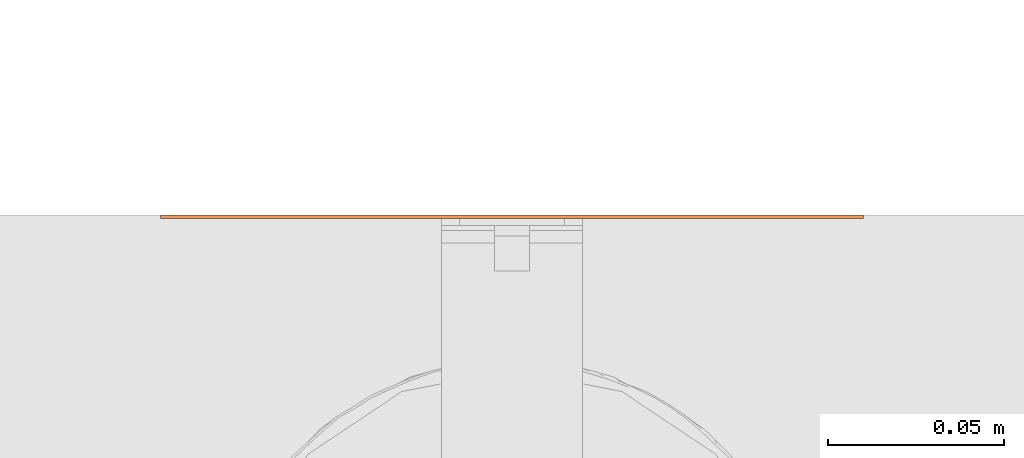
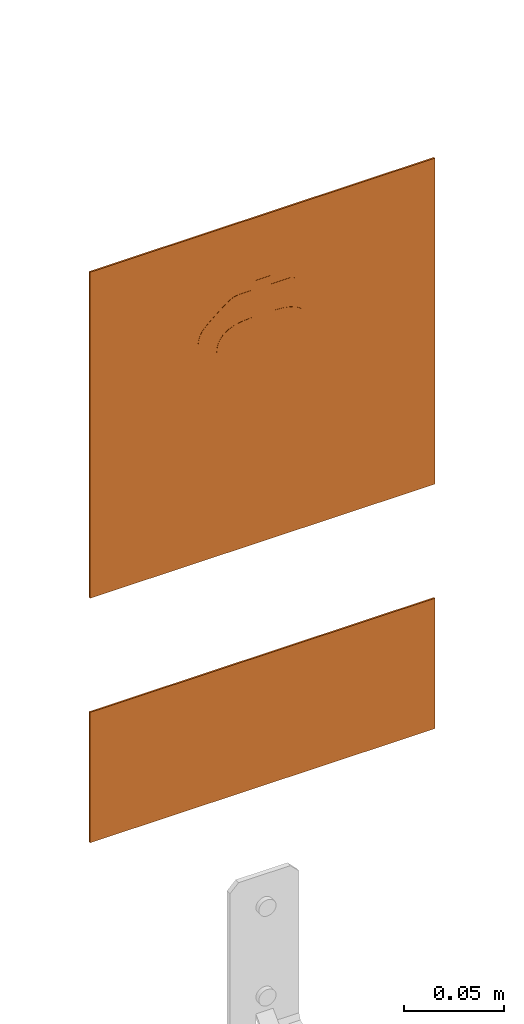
# One storey, part 88 of 119: 2 proxies.
"""IFC2X3 building model written with IfcOpenShell, lengths in metres."""

import ifcopenshell
import ifcopenshell.guid

model = None  # the IFC model being written
_history = None  # IfcOwnerHistory: only IFC2X3 demands one
_inside = {}  # id of a spatial element -> (the spatial element, [elements in it])
_under = {}  # id of a project, library or spatial element -> (it, [spatial elements below it])
_declared = {}  # id of a project -> (the project, [libraries it declares])
_typed = {}  # id of a type object -> (the type object, [elements of that type])
_made_of = {}  # id of a material, layer set ... -> (it, [elements and type objects made of it])


def new_model(schema):
    """Start an empty IFC model of exactly this schema.

    Asked for "IFC4X3", IfcOpenShell would pick the latest addendum, in which some entities
    have other attributes; the version numbers below select the first issue.
    IFC2X3 requires an IfcOwnerHistory on every rooted entity: one is made here for all.
    """
    global model, _history
    if schema == "IFC4X3":
        model = ifcopenshell.file(schema_version=(4, 3, 0, 0))
    else:
        model = ifcopenshell.file(schema=schema)
    _inside.clear()
    _under.clear()
    _declared.clear()
    _typed.clear()
    _made_of.clear()
    _history = None
    if model.schema == "IFC2X3":
        org = make("IfcOrganization", Name="unknown")
        user = make(
            "IfcPersonAndOrganization",
            ThePerson=make("IfcPerson", FamilyName="unknown"),
            TheOrganization=org,
        )
        app = make(
            "IfcApplication",
            ApplicationDeveloper=org,
            Version="unknown",
            ApplicationFullName="unknown",
            ApplicationIdentifier="unknown",
        )
        _history = make(
            "IfcOwnerHistory",
            OwningUser=user,
            OwningApplication=app,
            ChangeAction="ADDED",
            CreationDate=0,
        )
    return model


def make(cls, **values):
    """One entity of the class cls with the attributes given. An attribute that is None is left unset."""
    return model.create_entity(
        cls, **{name: value for name, value in values.items() if value is not None}
    )


def entity(cls, *values):
    """Any entity or typed value of the class cls, its attributes in the order of the schema. None: left unset."""
    e = model.create_entity(cls)
    for i, value in enumerate(values):
        if value is not None:
            e[i] = value
    return e


def rooted(cls, **values):
    """An entity with a GlobalId (a new one), such as an element, a storey or a relation."""
    return make(cls, GlobalId=ifcopenshell.guid.new(), OwnerHistory=_history, **values)


def si_unit(unit_type, name, prefix=None):
    """IfcSIUnit, for example si_unit("LENGTHUNIT", "METRE", prefix="MILLI")."""
    return make("IfcSIUnit", UnitType=unit_type, Prefix=prefix, Name=name)


def converted_unit(unit_type, name, factor, base, dimensions=None, offset=None):
    """IfcConversionBasedUnit, such as the inch: factor (a typed value) times the base unit."""
    return make(
        "IfcConversionBasedUnit"
        if offset is None
        else "IfcConversionBasedUnitWithOffset",
        ConversionOffset=offset,
        Dimensions=None
        if dimensions is None
        else entity("IfcDimensionalExponents", *dimensions),
        UnitType=unit_type,
        Name=name,
        ConversionFactor=make(
            "IfcMeasureWithUnit", ValueComponent=factor, UnitComponent=base
        ),
    )


def derived_unit(unit_type, elements):
    """IfcDerivedUnit: a product of units, each with its exponent."""
    return make(
        "IfcDerivedUnit",
        Elements=[
            make("IfcDerivedUnitElement", Unit=unit, Exponent=power)
            for unit, power in elements
        ],
        UnitType=unit_type,
    )


def assignment(units):
    """IfcUnitAssignment: the units of a project."""
    return None if units is None else make("IfcUnitAssignment", Units=units)


def point(xyz):
    """IfcCartesianPoint."""
    return None if xyz is None else make("IfcCartesianPoint", Coordinates=xyz)


def direction(xyz):
    """IfcDirection."""
    return None if xyz is None else make("IfcDirection", DirectionRatios=xyz)


def frame(location, z_axis=None, x_axis=None):
    """IfcAxis2Placement3D, a coordinate frame: its origin and axes. An axis left out is left unset."""
    return make(
        "IfcAxis2Placement3D",
        Location=point(location),
        Axis=direction(z_axis),
        RefDirection=direction(x_axis),
    )


def frame_2d(location, x_axis=None):
    """IfcAxis2Placement2D, a coordinate frame in the plane: its origin and x axis."""
    return make(
        "IfcAxis2Placement2D", Location=point(location), RefDirection=direction(x_axis)
    )


def origin():
    """The frame at (0, 0, 0) with its axes left unset."""
    return frame((0.0, 0.0, 0.0))


def origin_2d_with_axis():
    """The frame at (0, 0) in the plane with the x axis (1, 0) written out."""
    return frame_2d((0.0, 0.0), x_axis=(1.0, 0.0))


def place(relative_to, where):
    """IfcLocalPlacement: puts the frame where relative to a parent placement (None: the world)."""
    return make(
        "IfcLocalPlacement", PlacementRelTo=relative_to, RelativePlacement=where
    )


def context(
    kind, dimensions, precision=None, world=None, true_north=None, identifier=None
):
    """IfcGeometricRepresentationContext, for example the 3D "Model" context."""
    return make(
        "IfcGeometricRepresentationContext",
        ContextIdentifier=identifier,
        ContextType=kind,
        CoordinateSpaceDimension=dimensions,
        Precision=precision,
        WorldCoordinateSystem=world,
        TrueNorth=true_north,
    )


def subcontext(parent, identifier, kind, view, scale=None):
    """IfcGeometricRepresentationSubContext, for example "Body" below "Model"."""
    return make(
        "IfcGeometricRepresentationSubContext",
        ContextIdentifier=identifier,
        ContextType=kind,
        ParentContext=parent,
        TargetScale=scale,
        TargetView=view,
    )


def project(units=None, contexts=None):
    """IfcProject with its units and contexts."""
    return rooted(
        "IfcProject",
        Name="project",
        RepresentationContexts=contexts,
        UnitsInContext=assignment(units),
    )


def spatial(cls, under=None, at=None, **own):
    """A site, building, storey or space (cls), placed at a placement, below another one or the project."""
    s = rooted(cls, ObjectPlacement=at, **own)
    if under is not None:
        _under.setdefault(under.id(), (under, []))[1].append(s)
    return s


def polyline(points):
    """IfcPolyline through the points."""
    return make("IfcPolyline", Points=[point(p) for p in points])


def circle_curve(where, radius):
    """IfcCircle in the frame where."""
    return make("IfcCircle", Position=where, Radius=radius)


def parameter(value):
    """IfcParameterValue: where a trimmed curve begins or ends, as a parameter of its basis curve."""
    return model.create_entity("IfcParameterValue", value)


def trimmed(basis, trim1, trim2, sense, master):
    """IfcTrimmedCurve: the piece of a basis curve between two trims."""
    return make(
        "IfcTrimmedCurve",
        BasisCurve=basis,
        Trim1=trim1,
        Trim2=trim2,
        SenseAgreement=sense,
        MasterRepresentation=master,
    )


def segment(curve, same_sense, transition):
    """IfcCompositeCurveSegment."""
    return make(
        "IfcCompositeCurveSegment",
        Transition=transition,
        SameSense=same_sense,
        ParentCurve=curve,
    )


def composite_curve(segments, self_intersect=None):
    """IfcCompositeCurve: segments joined end to end."""
    return make("IfcCompositeCurve", Segments=segments, SelfIntersect=self_intersect)


def profile(cls, at=None, kind="AREA", **sizes):
    """A parametric profile (cls). Its sizes go by their IFC names, for example OverallWidth=200.0."""
    return make(cls, ProfileType=kind, Position=at, **sizes)


def rectangle(**sizes):
    """IfcRectangleProfileDef."""
    return profile("IfcRectangleProfileDef", **sizes)


def outline(outer, holes=None, kind="AREA"):
    """IfcArbitraryClosedProfileDef: a profile drawn as a closed curve; with holes, ...WithVoids."""
    if holes is None:
        return make("IfcArbitraryClosedProfileDef", ProfileType=kind, OuterCurve=outer)
    return make(
        "IfcArbitraryProfileDefWithVoids",
        ProfileType=kind,
        OuterCurve=outer,
        InnerCurves=holes,
    )


def extrude(swept, where, along, depth):
    """IfcExtrudedAreaSolid: the profile swept, set in the frame where, extruded along a direction by depth."""
    return make(
        "IfcExtrudedAreaSolid",
        SweptArea=swept,
        Position=where,
        ExtrudedDirection=direction(along),
        Depth=depth,
    )


def shape(context_of_items, identifier, shape_type, items):
    """IfcShapeRepresentation: the items that make up one representation, for example the "Body"."""
    return make(
        "IfcShapeRepresentation",
        ContextOfItems=context_of_items,
        RepresentationIdentifier=identifier,
        RepresentationType=shape_type,
        Items=items,
    )


def source(mapping_origin, context_of_items, identifier, shape_type, items):
    """IfcRepresentationMap: a shape defined once, which mapped items show again and again."""
    return make(
        "IfcRepresentationMap",
        MappingOrigin=mapping_origin,
        MappedRepresentation=shape(context_of_items, identifier, shape_type, items),
    )


def transform(
    local_origin,
    x_axis=None,
    y_axis=None,
    z_axis=None,
    scale=None,
    scale2=None,
    scale3=None,
    uniform=True,
):
    """IfcCartesianTransformationOperator3D, or its non-uniform kind. x_axis, y_axis, z_axis: its Axis1, 2, 3."""
    if uniform:
        return make(
            "IfcCartesianTransformationOperator3D",
            Axis1=direction(x_axis),
            Axis2=direction(y_axis),
            LocalOrigin=point(local_origin),
            Scale=scale,
            Axis3=direction(z_axis),
        )
    return make(
        "IfcCartesianTransformationOperator3DnonUniform",
        Axis1=direction(x_axis),
        Axis2=direction(y_axis),
        LocalOrigin=point(local_origin),
        Scale=scale,
        Axis3=direction(z_axis),
        Scale2=scale2,
        Scale3=scale3,
    )


def mapped(mapping_source, mapping_target):
    """IfcMappedItem: shows the shape of a source again, moved by a transform."""
    return make(
        "IfcMappedItem", MappingSource=mapping_source, MappingTarget=mapping_target
    )


def material(Name=None, Category=None):
    """IfcMaterial."""
    return make("IfcMaterial", Name=Name, Category=Category)


def material_list(materials):
    """IfcMaterialList."""
    return make("IfcMaterialList", Materials=materials)


def made_of(thing, what):
    """Note that an element or type object is made of a material, layer set ...; save() writes the relation."""
    if what is not None:
        _made_of.setdefault(what.id(), (what, []))[1].append(thing)
    return thing


def type_object(cls, material=None, **own):
    """A type object (cls), such as IfcWallType, which elements share."""
    return made_of(rooted(cls, **own), material)


def type_shapes(of_type, sources):
    """Give a type object the sources (RepresentationMaps) that its elements show as mapped items."""
    of_type.RepresentationMaps = sources


def element(
    cls,
    number,
    at=None,
    inside=None,
    cuts=None,
    type_object=None,
    material=None,
    context=None,
    identifier="Body",
    shape_type=None,
    held_by="IfcProductDefinitionShape",
    body=None,
    shapes=None,
    **own,
):
    """One element of the class cls, such as IfcWall. Its Tag is "e" and its number.

    at: its placement. inside: the storey or other place that contains it. cuts: it is an
    opening in that element (IfcRelVoidsElement). A single representation is given by context,
    identifier, shape_type and body (its items); several are given by shapes. held_by: the class
    of the entity that holds the representations. save() writes the other relations.
    """
    e = rooted(cls, Tag="e%d" % number, ObjectPlacement=at, **own)
    if body is not None:
        shapes = [shape(context, identifier, shape_type, body)]
    if shapes is not None:
        e.Representation = make(held_by, Representations=shapes)
    if inside is not None:
        _inside.setdefault(inside.id(), (inside, []))[1].append(e)
    if cuts is not None:
        rooted(
            "IfcRelVoidsElement", RelatingBuildingElement=cuts, RelatedOpeningElement=e
        )
    if type_object is not None:
        _typed.setdefault(type_object.id(), (type_object, []))[1].append(e)
    return made_of(e, material)


def aggregate(whole, parts):
    """IfcRelAggregates: a whole, such as a stair, and the parts it consists of."""
    return rooted("IfcRelAggregates", RelatingObject=whole, RelatedObjects=parts)


def save(model, path):
    """Write the relations noted so far, then the file.

    IfcRelAggregates (storeys below a building ...), IfcRelContainedInSpatialStructure (elements
    in a storey), IfcRelDefinesByType, IfcRelAssociatesMaterial and IfcRelDeclares: one each for
    every whole, place, type object, material and project.
    """
    for whole, parts in _under.values():
        aggregate(whole, parts)
    for where, things in _inside.values():
        rooted(
            "IfcRelContainedInSpatialStructure",
            RelatedElements=things,
            RelatingStructure=where,
        )
    for kind, things in _typed.values():
        rooted("IfcRelDefinesByType", RelatedObjects=things, RelatingType=kind)
    for what, things in _made_of.values():
        rooted("IfcRelAssociatesMaterial", RelatedObjects=things, RelatingMaterial=what)
    for by, libraries in _declared.values():
        rooted("IfcRelDeclares", RelatingContext=by, RelatedDefinitions=libraries)
    model.write(path)


model = new_model("IFC2X3")

# Units and contexts
model_context = context("Model", 3, precision=1e-05, world=origin(), true_north=direction((6.12303176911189e-17, 1.0)))
body_context = subcontext(model_context, "Body", "Model", "MODEL_VIEW")
ifc_project = project(units=[si_unit("LENGTHUNIT", "METRE"), si_unit("AREAUNIT", "SQUARE_METRE"), si_unit("VOLUMEUNIT", "CUBIC_METRE"), converted_unit("PLANEANGLEUNIT", "DEGREE", entity("IfcRatioMeasure", 0.0174532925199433), si_unit("PLANEANGLEUNIT", "RADIAN"), dimensions=[0, 0, 0, 0, 0, 0, 0]), si_unit("MASSUNIT", "GRAM", prefix="KILO"), derived_unit("MASSDENSITYUNIT", [(si_unit("MASSUNIT", "GRAM", prefix="KILO"), 1), (si_unit("LENGTHUNIT", "METRE"), -3)]), derived_unit("MOMENTOFINERTIAUNIT", [(si_unit("LENGTHUNIT", "METRE"), 4)]), si_unit("TIMEUNIT", "SECOND"), si_unit("FREQUENCYUNIT", "HERTZ"), si_unit("THERMODYNAMICTEMPERATUREUNIT", "DEGREE_CELSIUS"), derived_unit("THERMALTRANSMITTANCEUNIT", [(si_unit("MASSUNIT", "GRAM", prefix="KILO"), 1), (si_unit("THERMODYNAMICTEMPERATUREUNIT", "KELVIN"), -1), (si_unit("TIMEUNIT", "SECOND"), -3)]), derived_unit("VOLUMETRICFLOWRATEUNIT", [(si_unit("LENGTHUNIT", "METRE"), 3), (si_unit("TIMEUNIT", "SECOND"), -1)]), si_unit("ELECTRICCURRENTUNIT", "AMPERE"), si_unit("ELECTRICVOLTAGEUNIT", "VOLT"), si_unit("POWERUNIT", "WATT"), si_unit("FORCEUNIT", "NEWTON", prefix="KILO"), si_unit("ILLUMINANCEUNIT", "LUX"), si_unit("LUMINOUSFLUXUNIT", "LUMEN"), si_unit("LUMINOUSINTENSITYUNIT", "CANDELA"), derived_unit("USERDEFINED", [(si_unit("MASSUNIT", "GRAM", prefix="KILO"), -1), (si_unit("LENGTHUNIT", "METRE"), -2), (si_unit("TIMEUNIT", "SECOND"), 3), (si_unit("LUMINOUSFLUXUNIT", "LUMEN"), 1)]), derived_unit("LINEARVELOCITYUNIT", [(si_unit("LENGTHUNIT", "METRE"), 1), (si_unit("TIMEUNIT", "SECOND"), -1)]), si_unit("PRESSUREUNIT", "PASCAL"), derived_unit("USERDEFINED", [(si_unit("LENGTHUNIT", "METRE"), -2), (si_unit("MASSUNIT", "GRAM", prefix="KILO"), 1), (si_unit("TIMEUNIT", "SECOND"), -2)]), derived_unit("LINEARFORCEUNIT", [(si_unit("MASSUNIT", "GRAM", prefix="KILO"), 1), (si_unit("LENGTHUNIT", "METRE"), 1), (si_unit("TIMEUNIT", "SECOND"), -2), (si_unit("LENGTHUNIT", "METRE"), -1)]), derived_unit("PLANARFORCEUNIT", [(si_unit("MASSUNIT", "GRAM", prefix="KILO"), 1), (si_unit("LENGTHUNIT", "METRE"), 1), (si_unit("TIMEUNIT", "SECOND"), -2), (si_unit("LENGTHUNIT", "METRE"), -2)])], contexts=[model_context])

# Site, building, storey
site_placement = place(None, origin())
site = spatial("IfcSite", under=ifc_project, at=site_placement, Name="Default", CompositionType="ELEMENT")
building_placement = place(site_placement, origin())
building = spatial("IfcBuilding", under=site, at=building_placement, CompositionType="ELEMENT")
storey_placement = place(building_placement, origin())
storey = spatial("IfcBuildingStorey", under=building, at=storey_placement, Name="PAV. 01 - TÉRREO", CompositionType="ELEMENT", Elevation=0.0)

# Proxies
ifc_material_1 = material(Name="Plastico branco")
ifc_material_2 = material(Name="Plastico vermelho")
ifc_material_list_1 = material_list([ifc_material_1, ifc_material_2])
building_element_proxy_type_1 = type_object("IfcBuildingElementProxyType", Name="Sinalização de equipamentos - E05 - Extintor de incêndio:Distância 08m", PredefinedType="NOTDEFINED", material=ifc_material_1)
shared_shape_1 = source(origin(), body_context, "Body", "SweptSolid", [
    extrude(outline(composite_curve([segment(polyline([(-0.039533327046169, -0.0988107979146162), (0.0136590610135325, -0.0988107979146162)]), True, "CONTINUOUS"), segment(polyline([(0.0136590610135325, -0.0988107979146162), (0.0136590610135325, -0.0150548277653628)]), True, "CONTINUOUS"), segment(polyline([(0.0136590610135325, -0.0150548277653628), (0.0132403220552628, -0.0112272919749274)]), True, "CONTINUOUS"), segment(polyline([(0.0132403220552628, -0.0112272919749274), (0.0119841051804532, -0.00798860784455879)]), True, "CONTINUOUS"), segment(polyline([(0.0119841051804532, -0.00798860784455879), (0.00989041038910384, -0.00533877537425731)]), True, "CONTINUOUS"), segment(polyline([(0.00989041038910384, -0.00533877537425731), (0.00695923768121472, -0.00327779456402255)]), True, "CONTINUOUS"), segment(polyline([(0.00695923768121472, -0.00327779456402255), (0.00319058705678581, -0.00180566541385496)]), True, "CONTINUOUS"), segment(polyline([(0.00319058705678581, -0.00180566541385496), (-0.00141554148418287, -0.000922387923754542)]), True, "CONTINUOUS"), segment(polyline([(-0.00141554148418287, -0.000922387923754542), (-0.00685914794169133, -0.000627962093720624)]), True, "CONTINUOUS"), segment(polyline([(-0.00685914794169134, -0.000627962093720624), (-0.00685914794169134, 0.00837547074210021)]), True, "CONTINUOUS"), segment(polyline([(-0.00685914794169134, 0.00837547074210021), (0.000568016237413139, 0.00837547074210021)]), True, "CONTINUOUS"), segment(polyline([(0.000568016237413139, 0.00837547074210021), (0.021500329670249, -0.0075875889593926)]), True, "CONTINUOUS"), segment(polyline([(0.021500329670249, -0.0075875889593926), (0.021500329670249, -0.0104328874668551)]), True, "CONTINUOUS"), segment(polyline([(0.021500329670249, -0.0104328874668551), (0.0245059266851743, -0.0104328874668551)]), True, "CONTINUOUS"), segment(polyline([(0.0245059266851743, -0.0104328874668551), (0.0245059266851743, -0.00811335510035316)]), True, "CONTINUOUS"), segment(polyline([(0.0245059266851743, -0.00811335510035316), (0.0243642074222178, -0.00545038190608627)]), True, "CONTINUOUS"), segment(polyline([(0.0243642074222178, -0.00545038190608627), (0.0239570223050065, -0.0032112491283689)]), True, "CONTINUOUS"), segment(polyline([(0.0239570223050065, -0.0032112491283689), (0.0233113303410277, -0.00132119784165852)]), True, "CONTINUOUS"), segment(polyline([(0.0233113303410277, -0.00132119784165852), (0.0224540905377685, 0.00029453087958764)]), True, "CONTINUOUS"), segment(polyline([(0.0224540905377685, 0.00029453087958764), (0.0214122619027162, 0.00171069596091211)]), True, "CONTINUOUS"), segment(polyline([(0.0214122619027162, 0.00171069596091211), (0.0202128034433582, 0.00300205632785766)]), True, "CONTINUOUS"), segment(polyline([(0.0202128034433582, 0.00300205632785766), (0.0188826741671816, 0.00424337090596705)]), True, "CONTINUOUS"), segment(polyline([(0.0188826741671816, 0.00424337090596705), (0.0144021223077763, 0.00811180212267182)]), True, "CONTINUOUS"), segment(polyline([(0.0144021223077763, 0.00811180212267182), (0.0113518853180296, 0.0106145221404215)]), True, "CONTINUOUS"), segment(polyline([(0.0113518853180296, 0.0106145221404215), (0.0085825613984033, 0.0127576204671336)]), True, "CONTINUOUS"), segment(polyline([(0.0085825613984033, 0.0127576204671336), (0.00738733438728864, 0.0136170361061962)]), True, "CONTINUOUS"), segment(polyline([(0.00738733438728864, 0.0136170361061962), (0.00631521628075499, 0.0143235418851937)]), True, "CONTINUOUS"), segment(polyline([(0.00631521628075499, 0.0143235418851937), (0.00532850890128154, 0.0148903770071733)]), True, "CONTINUOUS"), segment(polyline([(0.00532850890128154, 0.0148903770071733), (0.00438926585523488, 0.0153309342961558)]), True, "CONTINUOUS"), segment(polyline([(0.00438926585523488, 0.0153309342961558), (0.00345954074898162, 0.0156586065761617)]), True, "CONTINUOUS"), segment(polyline([(0.00345954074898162, 0.0156586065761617), (0.00250138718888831, 0.0158867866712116)]), True, "CONTINUOUS"), segment(polyline([(0.00250138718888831, 0.0158867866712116), (0.00144087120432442, 0.0160289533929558)]), True, "CONTINUOUS"), segment(polyline([(0.00144087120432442, 0.0160289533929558), (-0.000108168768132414, 0.0160993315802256)]), True, "CONTINUOUS"), segment(polyline([(-0.000108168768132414, 0.0160993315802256), (-0.00685914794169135, 0.0160831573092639)]), True, "CONTINUOUS"), segment(polyline([(-0.00685914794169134, 0.0160831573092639), (-0.00685914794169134, 0.0213863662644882)]), True, "CONTINUOUS"), segment(polyline([(-0.00685914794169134, 0.0213863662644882), (-0.0177728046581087, 0.0213863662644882)]), True, "CONTINUOUS"), segment(polyline([(-0.0177728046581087, 0.0213863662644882), (-0.0177728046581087, 0.0160831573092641)]), True, "CONTINUOUS"), segment(polyline([(-0.0177728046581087, 0.0160831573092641), (-0.0288467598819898, 0.0160831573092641)]), True, "CONTINUOUS"), segment(trimmed(circle_curve(frame_2d((-0.0288467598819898, 0.0122293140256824), x_axis=(-1.0, 0.0)), 0.00385384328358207), [parameter(270.0)], [parameter(90.0000000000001)], True, "PARAMETER"), True, "CONTINUOUS"), segment(polyline([(-0.0288467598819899, 0.00837547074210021), (-0.0190151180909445, 0.00837547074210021)]), True, "CONTINUOUS"), segment(polyline([(-0.0190151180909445, 0.00837547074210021), (-0.0190151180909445, -0.000627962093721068)]), True, "CONTINUOUS"), segment(polyline([(-0.0190151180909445, -0.000627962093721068), (-0.024458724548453, -0.000922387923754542)]), True, "CONTINUOUS"), segment(polyline([(-0.024458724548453, -0.000922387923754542), (-0.0290648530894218, -0.00180566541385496)]), True, "CONTINUOUS"), segment(polyline([(-0.0290648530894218, -0.00180566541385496), (-0.0328335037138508, -0.00327779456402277)]), True, "CONTINUOUS"), segment(polyline([(-0.0328335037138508, -0.00327779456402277), (-0.03576467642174, -0.00533877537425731)]), True, "CONTINUOUS"), segment(polyline([(-0.03576467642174, -0.00533877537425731), (-0.0378583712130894, -0.00798860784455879)]), True, "CONTINUOUS"), segment(polyline([(-0.0378583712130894, -0.00798860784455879), (-0.0391145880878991, -0.0112272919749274)]), True, "CONTINUOUS"), segment(polyline([(-0.0391145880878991, -0.0112272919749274), (-0.039533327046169, -0.0150548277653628)]), True, "CONTINUOUS"), segment(polyline([(-0.039533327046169, -0.0150548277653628), (-0.039533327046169, -0.0988107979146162)]), True, "CONTINUOUS")], self_intersect=False)), frame((-0.0129371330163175, -0.0011, 1.94006139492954), z_axis=(0.0, 1.0, 0.0), x_axis=(-1.0, 0.0, 0.0)), (0.0, 0.0, 1.0), 0.0011),
    extrude(rectangle(XDim=0.001, YDim=0.179, at=origin_2d_with_axis()), frame((0.0, -0.0005, 1.8105), z_axis=(0.0, 0.0, 1.0), x_axis=(0.0, 1.0, 0.0)), (0.0, 0.0, 1.0), 0.179),
    extrude(outline(polyline([(-0.100000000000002, -0.1), (0.100000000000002, -0.1), (0.100000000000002, 0.1), (-0.100000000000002, 0.1), (-0.100000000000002, -0.1)]), holes=[polyline([(-0.0895000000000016, -0.0895000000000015), (-0.0895000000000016, 0.0894999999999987), (0.0894999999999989, 0.0894999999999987), (0.0894999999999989, -0.0895000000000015), (-0.0895000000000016, -0.0895000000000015)])]), frame((0.0, -0.001, 1.9), z_axis=(0.0, 1.0, 0.0), x_axis=(0.0, 0.0, -1.0)), (0.0, 0.0, 1.0), 0.001),
])
type_shapes(building_element_proxy_type_1, [shared_shape_1])
proxy_1_placement = place(storey_placement, frame((79.1765983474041, 3.63338193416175, 0.0)))
element("IfcBuildingElementProxy", 1, at=proxy_1_placement, inside=storey, type_object=building_element_proxy_type_1, material=ifc_material_list_1, Name="Sinalização de equipamentos - E05 - Extintor de incêndio:Distância 08m", ObjectType="Sinalização de equipamentos - E05 - Extintor de incêndio:Distância 08m", context=body_context, shape_type="MappedRepresentation", body=[
    mapped(shared_shape_1, transform((0.0, 0.0, 0.0), scale=1.0)),
])
ifc_material_3 = material(Name="Plastico Preto")
ifc_material_4 = material(Name="Plastico azul claro")
ifc_material_5 = material(Name="Plastico Verde")
ifc_material_list_2 = material_list([ifc_material_3, ifc_material_4, ifc_material_2, ifc_material_1, ifc_material_5])
building_element_proxy_type_2 = type_object("IfcBuildingElementProxyType", Name="Sinalização de equipamentos - E05 - Extintor de incêndio - TIPO 2:Placa de extintor - E6-A", PredefinedType="NOTDEFINED", material=ifc_material_3)
shared_shape_2 = source(origin(), body_context, "Body", "SweptSolid", [
    extrude(rectangle(XDim=0.001, YDim=0.0243464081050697, at=origin_2d_with_axis()), frame((0.0791678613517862, -0.0005, 0.0143679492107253), z_axis=(0.0, 0.0, 1.0), x_axis=(0.0, 1.0, 0.0)), (0.0, 0.0, 1.0), 0.0243153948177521),
    extrude(rectangle(XDim=0.001, YDim=0.0243464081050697, at=origin_2d_with_axis()), frame((0.0514092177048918, -0.0005, 0.0143679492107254), z_axis=(0.0, 0.0, 1.0), x_axis=(0.0, 1.0, 0.0)), (0.0, 0.0, 1.0), 0.0243153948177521),
    extrude(rectangle(XDim=0.001, YDim=0.0243464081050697, at=origin_2d_with_axis()), frame((0.023605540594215, -0.0005, 0.0143679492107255), z_axis=(0.0, 0.0, 1.0), x_axis=(0.0, 1.0, 0.0)), (0.0, 0.0, 1.0), 0.0243153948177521),
    extrude(rectangle(XDim=0.001, YDim=0.0243464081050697, at=origin_2d_with_axis()), frame((-0.00415310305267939, -0.0005, 0.0143679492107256), z_axis=(0.0, 0.0, 1.0), x_axis=(0.0, 1.0, 0.0)), (0.0, 0.0, 1.0), 0.0243153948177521),
    extrude(outline(polyline([(-0.0399999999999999, -0.1), (0.0399999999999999, -0.1), (0.0399999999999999, 0.1), (-0.0399999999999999, 0.1), (-0.0399999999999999, -0.1)]), holes=[polyline([(-0.0319999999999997, 0.091), (-0.0150022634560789, 0.091), (-0.0150022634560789, -0.091), (-0.0319999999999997, -0.091), (-0.0319999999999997, 0.091)]), polyline([(-0.010791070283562, 0.091), (0.0319999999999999, 0.091), (0.0319999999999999, 0.0473282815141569), (-0.010791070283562, 0.0473282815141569), (-0.010791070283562, 0.091)]), polyline([(0.00131665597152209, 0.0441091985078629), (0.0256320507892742, 0.0441091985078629), (0.0256320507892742, 0.0197627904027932), (0.00131665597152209, 0.0197627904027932), (0.00131665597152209, 0.0441091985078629)]), polyline([(0.00131665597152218, 0.0163263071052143), (0.0256320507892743, 0.0163263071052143), (0.0256320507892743, -0.00802010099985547), (0.00131665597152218, -0.00802010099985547), (0.00131665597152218, 0.0163263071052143)]), polyline([(0.00131665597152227, -0.0114323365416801), (0.0256320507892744, -0.0114323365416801), (0.0256320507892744, -0.0357787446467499), (0.00131665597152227, -0.0357787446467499), (0.00131665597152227, -0.0114323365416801)]), polyline([(0.00131665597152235, -0.0635824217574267), (0.00131665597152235, -0.039236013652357), (0.0256320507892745, -0.039236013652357), (0.0256320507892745, -0.0635824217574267), (0.00131665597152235, -0.0635824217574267)]), polyline([(0.00131665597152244, -0.0669946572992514), (0.0256320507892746, -0.0669946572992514), (0.0256320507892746, -0.091), (0.00131665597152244, -0.091), (0.00131665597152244, -0.0669946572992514)])]), frame((0.0, -0.001, 0.0399999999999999), z_axis=(0.0, 1.0, 0.0), x_axis=(0.0, 0.0, -1.0)), (0.0, 0.0, 1.0), 0.001),
    extrude(outline(composite_curve([segment(trimmed(circle_curve(frame_2d((-0.00182713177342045, 0.0030692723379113), x_axis=(1.0, 0.0)), 0.00333179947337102), [parameter(180.0)], [parameter(270.0)], True, "PARAMETER"), True, "CONTINUOUS"), segment(polyline([(-0.00182713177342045, -0.000262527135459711), (-0.000430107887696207, -0.000262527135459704)]), True, "CONTINUOUS"), segment(polyline([(-0.000430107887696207, -0.000262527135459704), (-0.000430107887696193, -0.00350797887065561)]), True, "CONTINUOUS"), segment(polyline([(-0.000430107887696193, -0.00350797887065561), (-0.00249820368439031, -0.00350797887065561)]), True, "CONTINUOUS"), segment(polyline([(-0.00249820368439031, -0.00350797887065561), (-0.00742535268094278, 7.18044171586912e-05)]), True, "CONTINUOUS"), segment(polyline([(-0.00742535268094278, 7.18044171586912e-05), (-0.00742535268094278, 0.00166630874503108)]), True, "CONTINUOUS"), segment(polyline([(-0.00742535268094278, 0.00166630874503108), (-0.00871124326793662, 0.00166630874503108)]), True, "CONTINUOUS"), segment(polyline([(-0.00871124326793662, 0.00166630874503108), (-0.00846384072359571, -0.00134355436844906)]), True, "CONTINUOUS"), segment(trimmed(circle_curve(frame_2d((-0.00608099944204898, -0.00114769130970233), x_axis=(1.0, 0.0)), 0.00239087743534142), [parameter(184.698993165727)], [parameter(232.0)], True, "PARAMETER"), True, "CONTINUOUS"), segment(polyline([(-0.00755297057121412, -0.00303172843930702), (-0.0030496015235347, -0.00655014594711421)]), True, "CONTINUOUS"), segment(polyline([(-0.0030496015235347, -0.00655014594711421), (-0.000124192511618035, -0.00655014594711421)]), True, "CONTINUOUS"), segment(polyline([(-0.000124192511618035, -0.00655014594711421), (-0.000124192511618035, -0.00788602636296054)]), True, "CONTINUOUS"), segment(polyline([(-0.000124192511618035, -0.00788602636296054), (0.003207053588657, -0.00788602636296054)]), True, "CONTINUOUS"), segment(polyline([(0.003207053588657, -0.00788602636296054), (0.003207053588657, -0.00698801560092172)]), True, "CONTINUOUS"), segment(polyline([(0.003207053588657, -0.00698801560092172), (0.00540783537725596, -0.00698801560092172)]), True, "CONTINUOUS"), segment(polyline([(0.00540783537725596, -0.00698801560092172), (0.00665542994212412, -0.00574042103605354)]), True, "CONTINUOUS"), segment(polyline([(0.00665542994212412, -0.00574042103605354), (0.00665542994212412, -0.00450724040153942)]), True, "CONTINUOUS"), segment(polyline([(0.00665542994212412, -0.00450724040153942), (0.00491919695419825, -0.00324579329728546)]), True, "CONTINUOUS"), segment(polyline([(0.00491919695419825, -0.00324579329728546), (0.00355615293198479, -0.00324579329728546)]), True, "CONTINUOUS"), segment(polyline([(0.00355615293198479, -0.00324579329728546), (0.00355615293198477, -0.000262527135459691)]), True, "CONTINUOUS"), segment(polyline([(0.00355615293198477, -0.000262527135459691), (0.00500257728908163, -0.000262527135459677)]), True, "CONTINUOUS"), segment(trimmed(circle_curve(frame_2d((0.00500257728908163, 0.00284153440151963), x_axis=(1.0, 0.0)), 0.00310406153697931), [parameter(270.0)], [parameter(1.52666624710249e-13)], True, "PARAMETER"), True, "CONTINUOUS"), segment(polyline([(0.00810663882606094, 0.00284153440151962), (0.0081066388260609, 0.0313568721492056)]), True, "CONTINUOUS"), segment(polyline([(0.0081066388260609, 0.0313568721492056), (-0.00515893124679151, 0.0313568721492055)]), True, "CONTINUOUS"), segment(polyline([(-0.00515893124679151, 0.0313568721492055), (-0.00515893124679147, 0.00306927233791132)]), True, "CONTINUOUS")], self_intersect=False)), frame((-0.0705753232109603, -0.001, 0.0413479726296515), z_axis=(0.0, 1.0, 0.0), x_axis=(1.0, 0.0, 0.0)), (0.0, 0.0, 1.0), 0.001),
    extrude(rectangle(XDim=0.001, YDim=0.0243464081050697, at=origin_2d_with_axis()), frame((-0.0319359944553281, -0.0005, 0.0143679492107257), z_axis=(0.0, 0.0, 1.0), x_axis=(0.0, 1.0, 0.0)), (0.0, 0.0, 1.0), 0.0243153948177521),
    extrude(outline(polyline([(-0.0218358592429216, -0.021395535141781), (0.0218358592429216, -0.021395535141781), (0.0218358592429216, 0.021395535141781), (-0.0218358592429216, 0.021395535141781), (-0.0218358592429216, -0.021395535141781)]), holes=[composite_curve([segment(polyline([(-0.00669545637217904, -0.0194044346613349), (-0.00669545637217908, 0.00911090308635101)]), True, "CONTINUOUS"), segment(trimmed(circle_curve(frame_2d((-0.00359139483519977, 0.00911090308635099), x_axis=(-1.0, 0.0)), 0.00310406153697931), [parameter(270.0)], [parameter(360.0)], True, "PARAMETER"), False, "CONTINUOUS"), segment(polyline([(-0.0035913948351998, 0.0122149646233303), (-0.00214497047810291, 0.0122149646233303)]), True, "CONTINUOUS"), segment(polyline([(-0.00214497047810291, 0.0122149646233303), (-0.00214497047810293, 0.0151982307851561)]), True, "CONTINUOUS"), segment(polyline([(-0.00214497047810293, 0.0151982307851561), (-0.0035080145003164, 0.0151982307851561)]), True, "CONTINUOUS"), segment(polyline([(-0.0035080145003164, 0.0151982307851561), (-0.00524424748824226, 0.01645967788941)]), True, "CONTINUOUS"), segment(polyline([(-0.00524424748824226, 0.01645967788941), (-0.00524424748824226, 0.0176928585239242)]), True, "CONTINUOUS"), segment(polyline([(-0.00524424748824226, 0.0176928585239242), (-0.0039966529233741, 0.0189404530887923)]), True, "CONTINUOUS"), segment(polyline([(-0.0039966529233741, 0.0189404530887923), (-0.00179587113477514, 0.0189404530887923)]), True, "CONTINUOUS"), segment(polyline([(-0.00179587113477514, 0.0189404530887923), (-0.00179587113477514, 0.0198384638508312)]), True, "CONTINUOUS"), segment(polyline([(-0.00179587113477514, 0.0198384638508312), (0.00153537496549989, 0.0198384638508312)]), True, "CONTINUOUS"), segment(polyline([(0.00153537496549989, 0.0198384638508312), (0.00153537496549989, 0.0185025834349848)]), True, "CONTINUOUS"), segment(polyline([(0.00153537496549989, 0.0185025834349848), (0.00446078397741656, 0.0185025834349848)]), True, "CONTINUOUS"), segment(polyline([(0.00446078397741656, 0.0185025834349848), (0.00896415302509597, 0.0149841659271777)]), True, "CONTINUOUS"), segment(trimmed(circle_curve(frame_2d((0.00749218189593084, 0.0131001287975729), x_axis=(-1.0, 0.0)), 0.00239087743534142), [parameter(184.698993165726)], [parameter(231.999999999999)], True, "PARAMETER"), False, "CONTINUOUS"), segment(polyline([(0.00987502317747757, 0.0132959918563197), (0.0101224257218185, 0.0102861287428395)]), True, "CONTINUOUS"), segment(polyline([(0.0101224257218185, 0.0102861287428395), (0.00883653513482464, 0.0102861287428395)]), True, "CONTINUOUS"), segment(polyline([(0.00883653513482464, 0.0102861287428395), (0.00883653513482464, 0.0118806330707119)]), True, "CONTINUOUS"), segment(polyline([(0.00883653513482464, 0.0118806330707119), (0.00390938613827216, 0.0154604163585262)]), True, "CONTINUOUS"), segment(polyline([(0.00390938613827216, 0.0154604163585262), (0.00184129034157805, 0.0154604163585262)]), True, "CONTINUOUS"), segment(polyline([(0.00184129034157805, 0.0154604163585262), (0.00184129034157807, 0.0122149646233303)]), True, "CONTINUOUS"), segment(polyline([(0.00184129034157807, 0.0122149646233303), (0.00323831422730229, 0.0122149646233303)]), True, "CONTINUOUS"), segment(trimmed(circle_curve(frame_2d((0.00323831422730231, 0.00888316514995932), x_axis=(-1.0, 0.0)), 0.00333179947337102), [parameter(180.0)], [parameter(270.0)], True, "PARAMETER"), False, "CONTINUOUS"), segment(polyline([(0.00657011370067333, 0.00888316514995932), (0.00657011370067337, -0.0194044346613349)]), True, "CONTINUOUS"), segment(polyline([(0.00657011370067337, -0.0194044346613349), (-0.00669545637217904, -0.0194044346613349)]), True, "CONTINUOUS")], self_intersect=False)]), frame((-0.0691641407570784, -0.001, 0.0293955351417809), z_axis=(0.0, 1.0, 0.0), x_axis=(-1.0, 0.0, 0.0)), (0.0, 0.0, 1.0), 0.001),
    extrude(rectangle(XDim=0.001, YDim=0.182, at=origin_2d_with_axis()), frame((0.0, -0.0005, 0.0550022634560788), z_axis=(0.0, 0.0, 1.0), x_axis=(0.0, 1.0, 0.0)), (0.0, 0.0, 1.0), 0.0169977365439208),
])
type_shapes(building_element_proxy_type_2, [shared_shape_2])
proxy_2_placement = place(storey_placement, frame((79.1765983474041, 3.63338193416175, 1.65)))
element("IfcBuildingElementProxy", 2, at=proxy_2_placement, inside=storey, type_object=building_element_proxy_type_2, material=ifc_material_list_2, Name="Sinalização de equipamentos - E05 - Extintor de incêndio - TIPO 2:Placa de extintor - E6-A", ObjectType="Sinalização de equipamentos - E05 - Extintor de incêndio - TIPO 2:Placa de extintor - E6-A", context=body_context, shape_type="MappedRepresentation", body=[
    mapped(shared_shape_2, transform((0.0, 0.0, 0.0), scale=1.0)),
])

save(model, "model.ifc")
